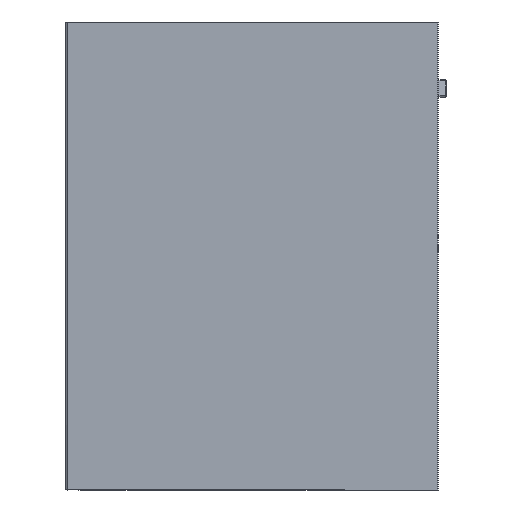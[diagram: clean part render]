
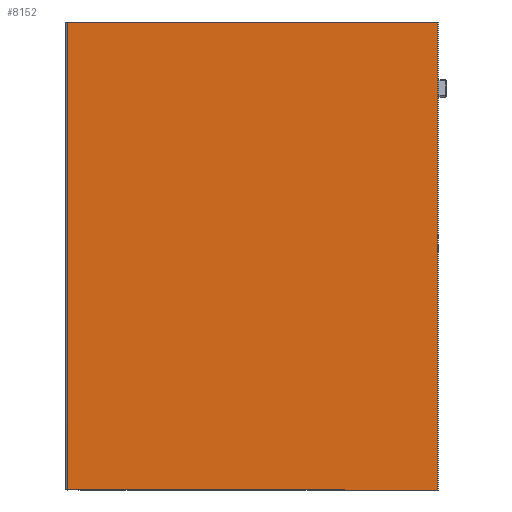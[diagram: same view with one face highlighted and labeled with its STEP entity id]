
A CAD part, left-side view. The second image highlights one B-rep face of the part: STEP entity #8152.
In plain terms, the highlighted planar face has unit normal (-1, 0, 0).
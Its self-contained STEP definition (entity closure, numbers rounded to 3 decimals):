
#223 = CARTESIAN_POINT ( 'NONE',  ( -12.5, 55.8, -362.455 ) ) ;
#316 = VECTOR ( 'NONE', #3170, 1000. ) ;
#871 = DIRECTION ( 'NONE',  ( 0., -1., 0. ) ) ;
#911 = VERTEX_POINT ( 'NONE', #1044 ) ;
#1044 = CARTESIAN_POINT ( 'NONE',  ( -12.5, 205.8, 0. ) ) ;
#1104 = VERTEX_POINT ( 'NONE', #4234 ) ;
#1484 = VERTEX_POINT ( 'NONE', #4209 ) ;
#2030 = ORIENTED_EDGE ( 'NONE', *, *, #9461, .F. ) ;
#2188 = DIRECTION ( 'NONE',  ( 0., 1., 0. ) ) ;
#2259 = LINE ( 'NONE', #11252, #316 ) ;
#2409 = EDGE_CURVE ( 'NONE', #911, #1484, #9366, .T. ) ;
#2512 = CARTESIAN_POINT ( 'NONE',  ( -12.5, 56.8, -299. ) ) ;
#3170 = DIRECTION ( 'NONE',  ( 0., 0., 1. ) ) ;
#3396 = DIRECTION ( 'NONE',  ( 0., -1., 0. ) ) ;
#3977 = ORIENTED_EDGE ( 'NONE', *, *, #10607, .T. ) ;
#4209 = CARTESIAN_POINT ( 'NONE',  ( -12.5, -30.66, 0. ) ) ;
#4234 = CARTESIAN_POINT ( 'NONE',  ( -12.5, -30.66, -299. ) ) ;
#4605 = VERTEX_POINT ( 'NONE', #7468 ) ;
#4811 = PLANE ( 'NONE',  #11176 ) ;
#5941 = ORIENTED_EDGE ( 'NONE', *, *, #2409, .F. ) ;
#6412 = LINE ( 'NONE', #9407, #8500 ) ;
#6419 = ORIENTED_EDGE ( 'NONE', *, *, #6597, .T. ) ;
#6597 = EDGE_CURVE ( 'NONE', #1104, #1484, #2259, .T. ) ;
#6808 = VECTOR ( 'NONE', #3396, 1000. ) ;
#6981 = VECTOR ( 'NONE', #871, 1000. ) ;
#7468 = CARTESIAN_POINT ( 'NONE',  ( -12.5, 205.8, -299. ) ) ;
#7529 = DIRECTION ( 'NONE',  ( -1., 0., 0. ) ) ;
#8152 = ADVANCED_FACE ( 'NONE', ( #10337 ), #4811, .T. ) ;
#8500 = VECTOR ( 'NONE', #10263, 1000. ) ;
#9202 = LINE ( 'NONE', #2512, #6808 ) ;
#9366 = LINE ( 'NONE', #9971, #6981 ) ;
#9407 = CARTESIAN_POINT ( 'NONE',  ( -12.5, 205.8, -362.455 ) ) ;
#9461 = EDGE_CURVE ( 'NONE', #4605, #911, #6412, .T. ) ;
#9971 = CARTESIAN_POINT ( 'NONE',  ( -12.5, 55.8, 0. ) ) ;
#10089 = EDGE_LOOP ( 'NONE', ( #6419, #5941, #2030, #3977 ) ) ;
#10263 = DIRECTION ( 'NONE',  ( 0., 0., 1. ) ) ;
#10337 = FACE_OUTER_BOUND ( 'NONE', #10089, .T. ) ;
#10607 = EDGE_CURVE ( 'NONE', #4605, #1104, #9202, .T. ) ;
#11176 = AXIS2_PLACEMENT_3D ( 'NONE', #223, #7529, #2188 ) ;
#11252 = CARTESIAN_POINT ( 'NONE',  ( -12.5, -30.66, -362.455 ) ) ;
